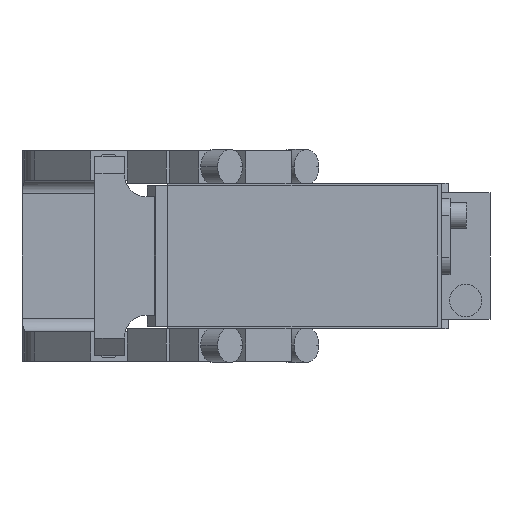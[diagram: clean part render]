
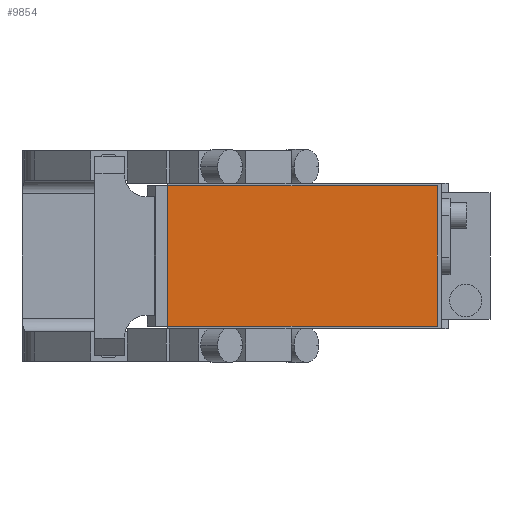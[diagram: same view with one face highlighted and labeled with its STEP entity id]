
A CAD part, front view. The second image highlights one B-rep face of the part: STEP entity #9854.
In plain terms, the highlighted planar face has unit normal (0, -1, 0).
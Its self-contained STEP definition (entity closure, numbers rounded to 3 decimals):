
#68 = DIRECTION ( 'NONE',  ( 0., 0., -1. ) ) ;
#438 = ORIENTED_EDGE ( 'NONE', *, *, #5170, .T. ) ;
#756 = AXIS2_PLACEMENT_3D ( 'NONE', #1134, #5811, #68 ) ;
#1134 = CARTESIAN_POINT ( 'NONE',  ( 0., -286.5, 0. ) ) ;
#1196 = DIRECTION ( 'NONE',  ( 0., 0., 1. ) ) ;
#1271 = EDGE_CURVE ( 'NONE', #13141, #7335, #5933, .T. ) ;
#1849 = CARTESIAN_POINT ( 'NONE',  ( 81., -286.5, 26. ) ) ;
#2032 = CARTESIAN_POINT ( 'NONE',  ( 81., -286.5, -26. ) ) ;
#2759 = EDGE_LOOP ( 'NONE', ( #438, #6644, #13321, #4725 ) ) ;
#3494 = LINE ( 'NONE', #6026, #9244 ) ;
#4401 = VERTEX_POINT ( 'NONE', #5365 ) ;
#4725 = ORIENTED_EDGE ( 'NONE', *, *, #1271, .T. ) ;
#4768 = DIRECTION ( 'NONE',  ( 1., 0., 0. ) ) ;
#4800 = VECTOR ( 'NONE', #9044, 1000. ) ;
#5170 = EDGE_CURVE ( 'NONE', #7335, #4401, #11364, .T. ) ;
#5318 = EDGE_CURVE ( 'NONE', #14683, #13141, #3494, .T. ) ;
#5365 = CARTESIAN_POINT ( 'NONE',  ( -19., -286.5, -26. ) ) ;
#5811 = DIRECTION ( 'NONE',  ( 0., -1., 0. ) ) ;
#5933 = LINE ( 'NONE', #10646, #8228 ) ;
#6026 = CARTESIAN_POINT ( 'NONE',  ( 81., -286.5, 26. ) ) ;
#6083 = LINE ( 'NONE', #10790, #6801 ) ;
#6644 = ORIENTED_EDGE ( 'NONE', *, *, #14218, .T. ) ;
#6801 = VECTOR ( 'NONE', #4768, 1000. ) ;
#6879 = CARTESIAN_POINT ( 'NONE',  ( -19., -286.5, 26. ) ) ;
#7335 = VERTEX_POINT ( 'NONE', #8095 ) ;
#8095 = CARTESIAN_POINT ( 'NONE',  ( -19., -286.5, 26. ) ) ;
#8228 = VECTOR ( 'NONE', #14089, 1000. ) ;
#9044 = DIRECTION ( 'NONE',  ( 0., 0., -1. ) ) ;
#9244 = VECTOR ( 'NONE', #1196, 1000. ) ;
#9854 = ADVANCED_FACE ( 'NONE', ( #14050 ), #13974, .T. ) ;
#10646 = CARTESIAN_POINT ( 'NONE',  ( -19., -286.5, 26. ) ) ;
#10790 = CARTESIAN_POINT ( 'NONE',  ( -19., -286.5, -26. ) ) ;
#11364 = LINE ( 'NONE', #6879, #4800 ) ;
#13141 = VERTEX_POINT ( 'NONE', #1849 ) ;
#13321 = ORIENTED_EDGE ( 'NONE', *, *, #5318, .T. ) ;
#13974 = PLANE ( 'NONE',  #756 ) ;
#14050 = FACE_OUTER_BOUND ( 'NONE', #2759, .T. ) ;
#14089 = DIRECTION ( 'NONE',  ( -1., 0., 0. ) ) ;
#14218 = EDGE_CURVE ( 'NONE', #4401, #14683, #6083, .T. ) ;
#14683 = VERTEX_POINT ( 'NONE', #2032 ) ;
